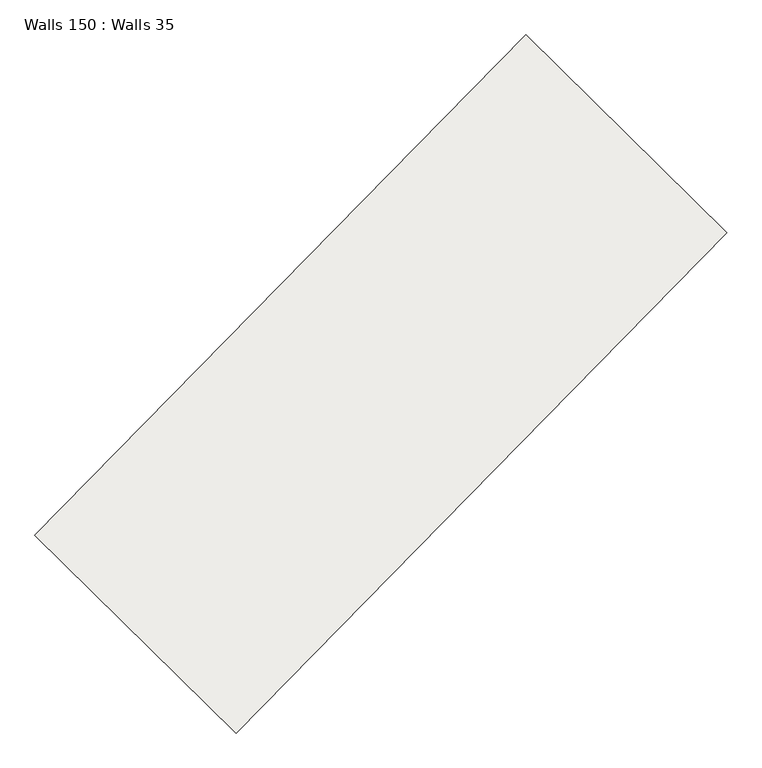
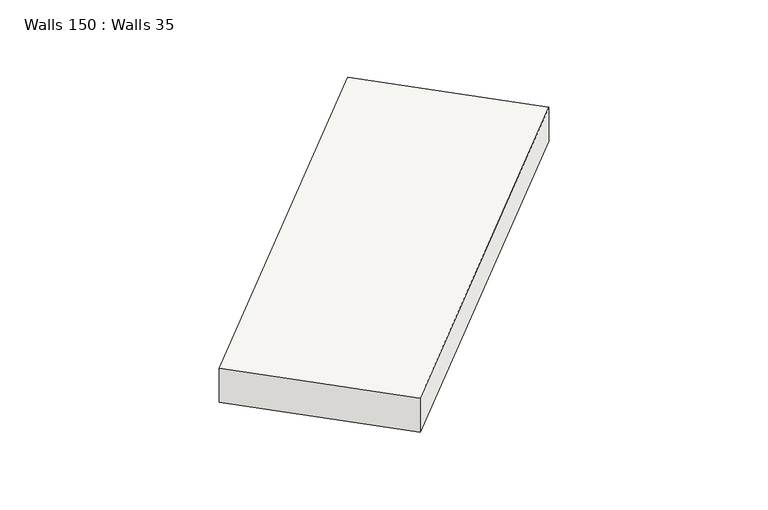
"""IFC4 building model written with IfcOpenShell, lengths in millimetres: slab geometry, Walls 150 : Walls 35."""

from ifc_helpers import new_model, si_unit, frame, origin, place, context, project, spatial, polyline, outline, extrude, source, transform, mapped, element, save


def walls_150_walls_35_e28580ca(model_context):
    return source(origin(), model_context, "Body", "SweptSolid", [
        extrude(outline(polyline([(-350.0, 0.0), (350.0, 0.0), (260.0, -8699.9999943), (-440.0, -8699.9999943), (-350.0, 0.0)])), frame((-170642.5101028, -333090.3025143, 635970.0), z_axis=(-0.713736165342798, 0.7004146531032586, 0.0), x_axis=(0.0, 0.0, 1.0)), (0.0, 0.0, 1.0), 3499.999995),
    ])


if __name__ == "__main__":
    model = new_model("IFC4")
    model_context = context("Model", 3, world=origin())
    ifc_project = project(units=[si_unit("LENGTHUNIT", "METRE", prefix="MILLI")], contexts=[model_context])
    site = spatial("IfcSite", under=ifc_project)
    building = spatial("IfcBuilding", under=site)
    placement = place(None, origin())
    walls_150_walls_35_shape = walls_150_walls_35_e28580ca(model_context)
    element("IfcSlab", 1, ObjectType="Walls 150 : Walls 35", at=placement, inside=building, context=model_context, shape_type="MappedRepresentation", body=[
        mapped(walls_150_walls_35_shape, transform((0.0, 0.0, 0.0), x_axis=(1.0, 0.0, 0.0), y_axis=(0.0, 1.0, 0.0), z_axis=(0.0, 0.0, 1.0))),
    ])
    save(model, "model.ifc")
